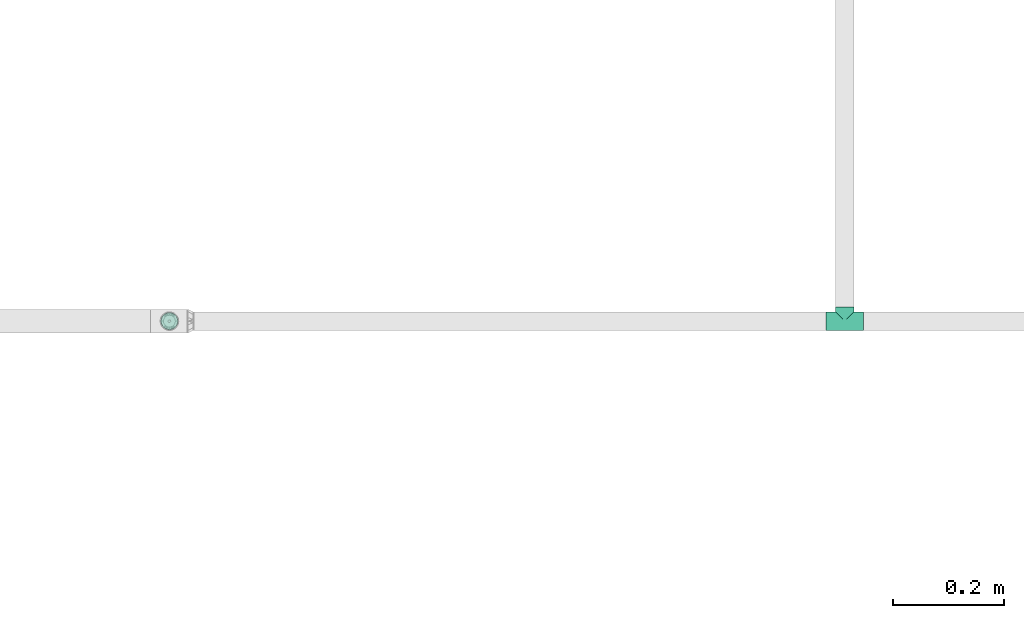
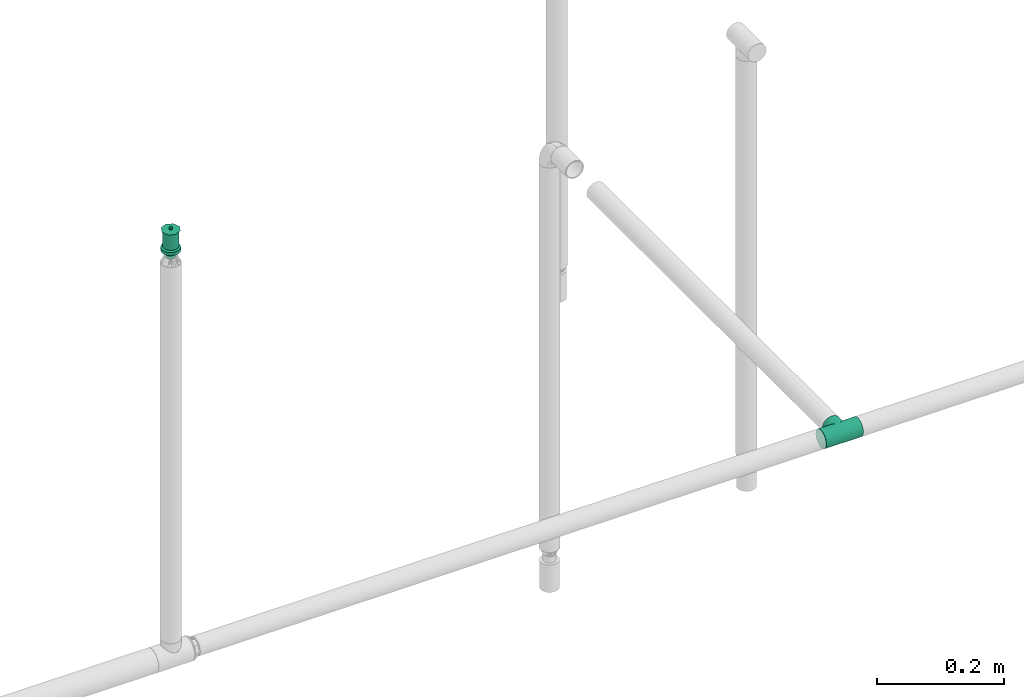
# One storey, part 50 of 94: 1 flow fitting, 1 flow terminal.
"""IFC2X3 building model written with IfcOpenShell, lengths in millimetres."""

from ifc_helpers import new_model, entity, si_unit, converted_unit, derived_unit, direction, frame, origin_with_axes, place, context, subcontext, project, spatial, open_shell, surface_model, source, transform, mapped, type_object, element, save


model = new_model("IFC2X3")

# Units and contexts
model_context = context("Model", 3, precision=0.01, world=frame((0.0, 4.29681676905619e-09, 0.0)), true_north=direction((4.01073788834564e-13, 1.0)))
plan_context = context("Plan", 3, precision=0.01, world=frame((0.0, 4.29681676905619e-09, 0.0)), true_north=direction((4.01073788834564e-13, 1.0)))
body_context = subcontext(model_context, "Body", "Model", "MODEL_VIEW")
ifc_project = project(units=[converted_unit("PLANEANGLEUNIT", "DEGREE", entity("IfcPositiveLengthMeasure", 0.0174532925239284), si_unit("PLANEANGLEUNIT", "RADIAN"), dimensions=[0, 0, 0, 0, 0, 0, 0]), si_unit("AREAUNIT", "SQUARE_METRE"), si_unit("LENGTHUNIT", "METRE", prefix="MILLI"), si_unit("MASSUNIT", "GRAM", prefix="KILO"), si_unit("POWERUNIT", "WATT"), si_unit("PRESSUREUNIT", "PASCAL", prefix="KILO"), si_unit("FORCEUNIT", "NEWTON", prefix="KILO"), si_unit("ELECTRICVOLTAGEUNIT", "VOLT"), si_unit("ELECTRICCURRENTUNIT", "AMPERE"), si_unit("THERMODYNAMICTEMPERATUREUNIT", "DEGREE_CELSIUS"), si_unit("TIMEUNIT", "SECOND"), si_unit("VOLUMEUNIT", "CUBIC_METRE"), derived_unit("LINEARVELOCITYUNIT", [(si_unit("LENGTHUNIT", "METRE"), 1), (si_unit("TIMEUNIT", "SECOND"), -1)]), derived_unit("VOLUMETRICFLOWRATEUNIT", [(si_unit("VOLUMEUNIT", "CUBIC_METRE"), 1), (si_unit("TIMEUNIT", "SECOND"), -1)]), derived_unit("THERMALTRANSMITTANCEUNIT", [(si_unit("POWERUNIT", "WATT"), 1), (si_unit("THERMODYNAMICTEMPERATUREUNIT", "KELVIN"), -1), (si_unit("AREAUNIT", "SQUARE_METRE"), -1)]), derived_unit("SOUNDPRESSUREUNIT", [(si_unit("PRESSUREUNIT", "PASCAL"), 1)])], contexts=[model_context, plan_context])

# Site, building, storey
site_placement = place(None, frame((0.0, -4.29681676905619e-09, 0.0), z_axis=(0.0, 0.0, 1.0), x_axis=(1.0, 0.0, 0.0)))
site = spatial("IfcSite", under=ifc_project, at=site_placement, CompositionType="ELEMENT")
building_placement = place(site_placement, frame((0.0, 4.29681676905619e-09, 0.0), z_axis=(0.0, 0.0, 1.0), x_axis=(1.0, 0.0, 0.0)))
building = spatial("IfcBuilding", under=site, at=building_placement, Name="mc-building", CompositionType="ELEMENT")
storey_placement = place(building_placement, frame((0.0, 0.0, 210900.0), z_axis=(0.0, 0.0, 1.0), x_axis=(1.0, 0.0, 0.0)))
storey = spatial("IfcBuildingStorey", under=building, at=storey_placement, Name="Nivå F", CompositionType="ELEMENT", Elevation=210900.0)

# Flow fitting
pipe_fitting_type = type_object("IfcPipeFittingType", Name="magi_pipe_fe_tee_centric_90_NOR", PredefinedType="JUNCTION")
shared_shape_1 = source(origin_with_axes(), body_context, "Body", "SurfaceModel", [
    surface_model("IfcShellBasedSurfaceModel", [(-33.8, 4.37404, -16.32415), (-33.8, 0.0, -16.9), (-33.8, 16.32415, -4.37404), (-33.8, 8.45, -14.63583), (-33.8, 11.9501, -11.9501), (-33.8, 14.63583, -8.45), (-33.8, -16.9, 0.0), (-33.8, -11.9501, -11.9501), (-33.8, -14.63583, -8.45), (-33.8, -8.45, -14.63583), (-33.8, -4.37404, -16.32415), (-33.8, -16.32415, -4.37404), (-33.8, 14.63583, 8.45), (-33.8, 16.32415, 4.37404), (-33.8, -8.45, 14.63583), (-33.8, 8.45, 14.63583), (-33.8, 11.9501, 11.9501), (-33.8, 4.37404, 16.32415), (-33.8, 0.0, 16.9), (-33.8, -11.9501, 11.9501), (-33.8, -14.63583, 8.45), (-33.8, -16.32415, 4.37404), (-33.8, -4.37404, 16.32415), (-33.8, 16.9, 0.0), (33.8, 4.37404, -16.32415), (33.8, -16.9, 0.0), (33.8, 0.0, -16.9), (33.8, 14.63583, -8.45), (33.8, 8.45, -14.63583), (33.8, 16.32415, -4.37404), (33.8, 11.9501, -11.9501), (33.8, -16.32415, 4.37404), (33.8, -8.45, -14.63583), (33.8, -4.37404, -16.32415), (33.8, -11.9501, -11.9501), (33.8, -14.63583, -8.45), (33.8, -16.32415, -4.37404), (33.8, 16.32415, 4.37404), (33.8, 8.45, 14.63583), (33.8, 14.63583, 8.45), (33.8, 11.9501, 11.9501), (33.8, -8.45, 14.63583), (33.8, 4.37404, 16.32415), (33.8, -14.63583, 8.45), (33.8, -11.9501, 11.9501), (33.8, 0.0, 16.9), (33.8, -4.37404, 16.32415), (33.8, 16.9, 0.0), (16.28698, -16.28698, 4.51047), (16.9, -16.9, 0.0), (14.62704, -14.62704, 8.4652), (9.47213, -9.47213, 13.99602), (12.26343, -12.26343, 11.62834), (-16.9, -16.9, 0.0), (-16.28698, -16.28698, 4.51047), (-14.62704, -14.62704, 8.4652), (-12.26343, -12.26343, 11.62834), (-9.47213, -9.47213, 13.99602), (-6.42894, -6.42894, 15.62942), (6.42894, -6.42894, 15.62942), (3.24522, -3.24522, 16.58549), (0.0, 0.0, 16.9), (-3.24522, -3.24522, 16.58549), (3.24522, -3.24522, -16.58549), (0.0, 0.0, -16.9), (-3.24522, -3.24522, -16.58549), (-6.42894, -6.42894, -15.62942), (6.42894, -6.42894, -15.62942), (9.47213, -9.47213, -13.99602), (12.26343, -12.26343, -11.62834), (14.62704, -14.62704, -8.4652), (16.28698, -16.28698, -4.51047), (-9.47213, -9.47213, -13.99602), (-12.26343, -12.26343, -11.62834), (-16.28698, -16.28698, -4.51047), (-14.62704, -14.62704, -8.4652), (4.37404, -25.35, -16.32415), (-16.9, -25.35, 0.0), (0.0, -25.35, -16.9), (14.63583, -25.35, -8.45), (8.45, -25.35, -14.63583), (16.32415, -25.35, -4.37404), (11.9501, -25.35, -11.9501), (-11.9501, -25.35, -11.9501), (-8.45, -25.35, -14.63583), (-4.37404, -25.35, -16.32415), (-14.63583, -25.35, -8.45), (-16.32415, -25.35, -4.37404), (16.9, -25.35, 0.0), (8.45, -25.35, 14.63583), (16.32415, -25.35, 4.37404), (14.63583, -25.35, 8.45), (-8.45, -25.35, 14.63583), (11.9501, -25.35, 11.9501), (4.37404, -25.35, 16.32415), (-16.32415, -25.35, 4.37404), (-11.9501, -25.35, 11.9501), (-14.63583, -25.35, 8.45), (0.0, -25.35, 16.9), (-4.37404, -25.35, 16.32415)], [open_shell([[[0, 1, 2]], [[3, 0, 4]], [[0, 2, 5]], [[4, 0, 5]], [[6, 2, 1]], [[7, 8, 9]], [[1, 10, 9]], [[11, 6, 8]], [[1, 9, 8]], [[1, 8, 6]], [[6, 12, 2]], [[12, 13, 2]], [[14, 12, 6]], [[12, 14, 15]], [[16, 12, 15]], [[17, 15, 18]], [[19, 14, 20]], [[21, 20, 14]], [[22, 18, 14]], [[14, 6, 21]], [[14, 18, 15]], [[23, 2, 13]], [[24, 25, 26]], [[27, 24, 28]], [[27, 29, 24]], [[27, 28, 30]], [[31, 25, 24]], [[26, 32, 33]], [[26, 34, 32]], [[35, 25, 36]], [[35, 34, 26]], [[25, 35, 26]], [[24, 29, 31]], [[29, 37, 38]], [[38, 37, 39]], [[38, 31, 29]], [[38, 39, 40]], [[41, 38, 42]], [[43, 41, 44]], [[41, 43, 31]], [[41, 45, 46]], [[41, 31, 38]], [[42, 45, 41]], [[29, 47, 37]], [[31, 43, 48]], [[25, 31, 49]], [[49, 31, 48]], [[43, 50, 48]], [[44, 41, 51]], [[50, 43, 52]], [[51, 52, 44]], [[52, 43, 44]], [[53, 54, 21]], [[53, 21, 6]], [[21, 54, 20]], [[54, 55, 20]], [[56, 57, 19]], [[19, 20, 56]], [[19, 57, 14]], [[56, 20, 55]], [[14, 57, 58]], [[51, 41, 59]], [[60, 45, 61]], [[59, 46, 60]], [[46, 59, 41]], [[60, 46, 45]], [[61, 45, 42]], [[39, 37, 13]], [[16, 38, 40]], [[12, 40, 39]], [[42, 38, 15]], [[23, 37, 47]], [[62, 61, 18]], [[62, 22, 58]], [[22, 62, 18]], [[58, 22, 14]], [[61, 17, 18]], [[42, 17, 61]], [[15, 17, 42]], [[15, 38, 16]], [[12, 16, 40]], [[13, 12, 39]], [[37, 23, 13]], [[5, 27, 30]], [[23, 47, 29]], [[30, 28, 3]], [[27, 2, 29]], [[26, 33, 63]], [[26, 64, 24]], [[64, 26, 63]], [[28, 24, 0]], [[64, 0, 24]], [[4, 30, 3]], [[2, 27, 5]], [[5, 30, 4]], [[2, 23, 29]], [[65, 66, 10]], [[1, 0, 64]], [[1, 65, 10]], [[66, 9, 10]], [[0, 3, 28]], [[1, 64, 65]], [[63, 33, 67]], [[32, 34, 68]], [[69, 68, 34]], [[35, 70, 69]], [[69, 34, 35]], [[32, 68, 67]], [[36, 25, 49]], [[36, 71, 35]], [[71, 36, 49]], [[35, 71, 70]], [[72, 9, 66]], [[72, 7, 9]], [[7, 72, 73]], [[7, 73, 8]], [[74, 53, 11]], [[75, 74, 8]], [[74, 11, 8]], [[11, 53, 6]], [[75, 8, 73]], [[32, 67, 33]], [[76, 77, 78]], [[79, 76, 80]], [[79, 81, 76]], [[79, 80, 82]], [[77, 76, 81]], [[78, 83, 84]], [[84, 85, 78]], [[86, 77, 87]], [[83, 78, 86]], [[77, 86, 78]], [[81, 88, 77]], [[89, 88, 90]], [[89, 90, 91]], [[92, 77, 89]], [[89, 91, 93]], [[92, 89, 94]], [[95, 96, 97]], [[96, 95, 92]], [[92, 98, 99]], [[95, 77, 92]], [[94, 98, 92]], [[89, 77, 88]], [[77, 95, 53]], [[54, 53, 95]], [[97, 96, 56]], [[96, 92, 57]], [[95, 97, 54]], [[58, 92, 99]], [[55, 54, 97]], [[56, 55, 97]], [[58, 57, 92]], [[98, 61, 62]], [[58, 99, 62]], [[56, 96, 57]], [[62, 99, 98]], [[94, 60, 98]], [[89, 59, 94]], [[91, 90, 48]], [[52, 93, 91]], [[93, 51, 89]], [[49, 90, 88]], [[59, 60, 94]], [[51, 59, 89]], [[49, 48, 90]], [[50, 52, 91]], [[48, 50, 91]], [[51, 93, 52]], [[98, 60, 61]], [[88, 81, 49]], [[71, 49, 81]], [[79, 82, 69]], [[82, 80, 68]], [[81, 79, 71]], [[67, 80, 76]], [[70, 71, 79]], [[69, 70, 79]], [[67, 68, 80]], [[78, 64, 63]], [[67, 76, 63]], [[69, 82, 68]], [[63, 76, 78]], [[85, 65, 78]], [[84, 66, 85]], [[86, 87, 74]], [[86, 73, 83]], [[72, 84, 83]], [[53, 87, 77]], [[66, 65, 85]], [[72, 66, 84]], [[53, 74, 87]], [[75, 73, 86]], [[74, 75, 86]], [[72, 83, 73]], [[78, 65, 64]]])]),
])
flow_fitting_placement = place(storey_placement, frame((724589.39723, 435194.37907, 3600.0), z_axis=(0.0, 0.0, 1.0), x_axis=(-1.0, 0.0, 0.0)))
element("IfcFlowFitting", 1, at=flow_fitting_placement, inside=storey, type_object=pipe_fitting_type, Name="magi_pipe_fe_tee_centric_90_NOR", context=body_context, shape_type="MappedRepresentation", body=[
    mapped(shared_shape_1, transform((0.0, 0.0, 0.0), scale=1.0)),
])

# Flow terminal
fire_suppression_terminal_type = type_object("IfcFireSuppressionTerminalType", Name="68DGR-STD-STÅENDE", PredefinedType="NOTDEFINED")
shared_shape_2 = source(origin_with_axes(), body_context, "Body", "SurfaceModel", [
    surface_model("IfcShellBasedSurfaceModel", [(3.36465, -12.55704, 51.0), (6.5, -11.25833, 51.0), (9.19239, -9.19239, 51.0), (12.55704, -3.36465, 51.0), (-11.25833, -6.5, 51.0), (11.25833, -6.5, 51.0), (-13.0, 0.0, 51.0), (0.0, -13.0, 51.0), (-6.5, -11.25833, 51.0), (-3.36465, -12.55704, 51.0), (-9.19239, -9.19239, 51.0), (-12.55704, -3.36465, 51.0), (13.0, 0.0, 51.0), (12.55704, 3.36465, 51.0), (11.25833, 6.5, 51.0), (9.19239, 9.19239, 51.0), (6.5, 11.25833, 51.0), (3.36465, 12.55704, 51.0), (0.0, 13.0, 51.0), (-3.36465, 12.55704, 51.0), (-12.55704, 3.36465, 51.0), (-9.19239, 9.19239, 51.0), (-11.25833, 6.5, 51.0), (-6.5, 11.25833, 51.0), (0.0, 13.0, 21.14766), (3.36465, 12.55704, 21.14766), (6.5, 11.25833, 21.14766), (-3.36465, 12.55704, 21.14766), (9.19239, 9.19239, 21.14766), (11.25833, 6.5, 21.14766), (12.55704, 3.36465, 21.14766), (-12.55704, 3.36465, 21.14766), (-11.25833, -6.5, 21.14766), (-9.19239, 9.19239, 21.14766), (-6.5, 11.25833, 21.14766), (-11.25833, 6.5, 21.14766), (-13.0, 0.0, 21.14766), (12.55704, -3.36465, 21.14766), (9.19239, -9.19239, 21.14766), (11.25833, -6.5, 21.14766), (6.5, -11.25833, 21.14766), (3.36465, -12.55704, 21.14766), (-6.5, -11.25833, 21.14766), (-9.19239, -9.19239, 21.14766), (-12.55704, -3.36465, 21.14766), (0.0, -13.0, 21.14766), (-3.36465, -12.55704, 21.14766), (13.0, 0.0, 21.14766), (7.24444, -1.94114, 0.1), (1.94114, -7.24444, 0.1), (3.75, -6.49519, 0.1), (5.3033, -5.3033, 0.1), (-5.3033, -5.3033, 0.1), (6.49519, -3.75, 0.1), (5.3033, 5.3033, 0.1), (0.0, -7.5, 0.1), (-3.75, -6.49519, 0.1), (-1.94114, -7.24444, 0.1), (-7.24444, -1.94114, 0.1), (-6.49519, -3.75, 0.1), (-7.24444, 1.94114, 0.1), (7.5, 0.0, 0.1), (6.49519, 3.75, 0.1), (-6.49519, 3.75, 0.1), (1.94114, 7.24444, 0.1), (0.0, 7.5, 0.1), (3.75, 6.49519, 0.1), (-7.5, 0.0, 0.1), (-5.3033, 5.3033, 0.1), (-1.94114, 7.24444, 0.1), (-3.75, 6.49519, 0.1), (7.24444, 1.94114, 0.1), (1.94114, 7.24444, -0.1), (-6.49519, 3.75, -0.1), (0.0, 7.5, -0.1), (5.3033, 5.3033, -0.1), (3.75, 6.49519, -0.1), (6.49519, 3.75, -0.1), (7.24444, 1.94114, -0.1), (-1.94114, 7.24444, -0.1), (-5.3033, 5.3033, -0.1), (-3.75, 6.49519, -0.1), (-7.24444, 1.94114, -0.1), (-7.24444, -1.94114, -0.1), (-7.5, 0.0, -0.1), (7.5, 0.0, -0.1), (7.24444, -1.94114, -0.1), (-5.3033, -5.3033, -0.1), (1.94114, -7.24444, -0.1), (6.49519, -3.75, -0.1), (5.3033, -5.3033, -0.1), (3.75, -6.49519, -0.1), (-6.49519, -3.75, -0.1), (-3.75, -6.49519, -0.1), (0.0, -7.5, -0.1), (-1.94114, -7.24444, -0.1), (0.0, -2.5, 51.0), (-2.5, 0.0, 51.0), (0.0, 2.5, 51.0), (2.5, 0.0, 51.0), (0.0, -16.0, 53.0), (11.31371, -11.31371, 53.0), (-11.31371, -11.31371, 53.0), (-16.0, 0.0, 53.0), (16.0, 0.0, 53.0), (11.31371, 11.31371, 53.0), (0.0, 16.0, 53.0), (-11.31371, 11.31371, 53.0), (1.25, -2.16506, 57.0), (0.0, -2.5, 57.0), (0.64705, -2.41481, 57.0), (2.41481, -0.64705, 57.0), (1.76777, -1.76777, 57.0), (-2.41481, -0.64705, 57.0), (-2.5, 0.0, 57.0), (2.16506, -1.25, 57.0), (-1.25, -2.16506, 57.0), (-0.64705, -2.41481, 57.0), (-1.76777, -1.76777, 57.0), (-2.16506, -1.25, 57.0), (2.5, 0.0, 57.0), (2.41481, 0.64705, 57.0), (2.16506, 1.25, 57.0), (1.76777, 1.76777, 57.0), (0.64705, 2.41481, 57.0), (1.25, 2.16506, 57.0), (-1.76777, 1.76777, 57.0), (0.0, 2.5, 57.0), (-2.16506, 1.25, 57.0), (-2.41481, 0.64705, 57.0), (-0.64705, 2.41481, 57.0), (-1.25, 2.16506, 57.0), (1.25, 2.16506, 51.0), (1.76777, 1.76777, 51.0), (1.15, 1.99186, 51.0), (0.59528, 2.22163, 51.0), (0.64705, 2.41481, 51.0), (0.0, 2.3, 51.0), (1.62635, 1.62635, 51.0), (2.41481, 0.64705, 51.0), (2.3, 0.0, 51.0), (2.22163, 0.59528, 51.0), (2.16506, 1.25, 51.0), (1.99186, 1.15, 51.0), (-0.59528, 2.22163, 51.0), (-0.64705, 2.41481, 51.0), (-1.15, 1.99186, 51.0), (-1.76777, 1.76777, 51.0), (-1.25, 2.16506, 51.0), (-1.62635, 1.62635, 51.0), (-1.99186, 1.15, 51.0), (-2.16506, 1.25, 51.0), (-2.22163, 0.59528, 51.0), (-2.41481, 0.64705, 51.0), (-2.3, 0.0, 51.0), (2.41481, -0.64705, 51.0), (2.22163, -0.59528, 51.0), (1.99186, -1.15, 51.0), (2.16506, -1.25, 51.0), (1.62635, -1.62635, 51.0), (1.76777, -1.76777, 51.0), (1.25, -2.16506, 51.0), (1.15, -1.99186, 51.0), (0.59528, -2.22163, 51.0), (0.64705, -2.41481, 51.0), (0.0, -2.3, 51.0), (-2.16506, -1.25, 51.0), (-1.99186, -1.15, 51.0), (-1.76777, -1.76777, 51.0), (-1.62635, -1.62635, 51.0), (-2.41481, -0.64705, 51.0), (-2.22163, -0.59528, 51.0), (-0.59528, -2.22163, 51.0), (-0.64705, -2.41481, 51.0), (-1.15, -1.99186, 51.0), (-1.25, -2.16506, 51.0), (1.62635, -1.62635, 56.8), (1.15, -1.99186, 56.8), (0.59528, -2.22163, 56.8), (0.0, -2.3, 56.8), (2.22163, 0.59528, 56.8), (1.99186, -1.15, 56.8), (2.22163, -0.59528, 56.8), (-0.59528, -2.22163, 56.8), (-1.15, -1.99186, 56.8), (-1.62635, -1.62635, 56.8), (-1.99186, -1.15, 56.8), (-2.22163, -0.59528, 56.8), (-1.99186, 1.15, 56.8), (2.3, 0.0, 56.8), (1.62635, 1.62635, 56.8), (1.99186, 1.15, 56.8), (1.15, 1.99186, 56.8), (0.0, 2.3, 56.8), (0.59528, 2.22163, 56.8), (-2.22163, 0.59528, 56.8), (-2.3, 0.0, 56.8), (-1.15, 1.99186, 56.8), (-0.59528, 2.22163, 56.8), (-1.62635, 1.62635, 56.8), (4.1411, -15.45481, 19.0), (8.0, -13.85641, 19.0), (11.31371, -11.31371, 19.0), (-8.0, -13.85641, 19.0), (15.45481, -4.1411, 19.0), (16.0, 0.0, 19.0), (13.85641, -8.0, 19.0), (0.0, -16.0, 19.0), (-4.1411, -15.45481, 19.0), (-13.85641, -8.0, 19.0), (-11.31371, -11.31371, 19.0), (-15.45481, -4.1411, 19.0), (15.45481, 4.1411, 19.0), (13.85641, 8.0, 19.0), (11.31371, 11.31371, 19.0), (-4.1411, 15.45481, 19.0), (8.0, 13.85641, 19.0), (4.1411, 15.45481, 19.0), (0.0, 16.0, 19.0), (-13.85641, 8.0, 19.0), (-15.45481, 4.1411, 19.0), (-16.0, 0.0, 19.0), (-11.31371, 11.31371, 19.0), (-8.0, 13.85641, 19.0), (0.0, 16.0, 13.0), (4.1411, 15.45481, 13.0), (8.0, 13.85641, 13.0), (-4.1411, 15.45481, 13.0), (11.31371, 11.31371, 13.0), (13.85641, 8.0, 13.0), (15.45481, 4.1411, 13.0), (-15.45481, -4.1411, 13.0), (-11.31371, 11.31371, 13.0), (-8.0, 13.85641, 13.0), (-13.85641, 8.0, 13.0), (-15.45481, 4.1411, 13.0), (-16.0, 0.0, 13.0), (4.1411, -15.45481, 13.0), (16.0, 0.0, 13.0), (15.45481, -4.1411, 13.0), (13.85641, -8.0, 13.0), (11.31371, -11.31371, 13.0), (8.0, -13.85641, 13.0), (-8.0, -13.85641, 13.0), (-13.85641, -8.0, 13.0), (-11.31371, -11.31371, 13.0), (0.0, -16.0, 13.0), (-4.1411, -15.45481, 13.0), (7.24444, -1.94114, 13.0), (1.94114, -7.24444, 13.0), (3.75, -6.49519, 13.0), (5.3033, -5.3033, 13.0), (-5.3033, -5.3033, 13.0), (6.49519, -3.75, 13.0), (5.3033, 5.3033, 13.0), (0.0, -7.5, 13.0), (-3.75, -6.49519, 13.0), (-1.94114, -7.24444, 13.0), (-7.24444, -1.94114, 13.0), (-6.49519, -3.75, 13.0), (-7.24444, 1.94114, 13.0), (7.5, 0.0, 13.0), (6.49519, 3.75, 13.0), (-6.49519, 3.75, 13.0), (1.94114, 7.24444, 13.0), (0.0, 7.5, 13.0), (3.75, 6.49519, 13.0), (-7.5, 0.0, 13.0), (-5.3033, 5.3033, 13.0), (-1.94114, 7.24444, 13.0), (-3.75, 6.49519, 13.0), (7.24444, 1.94114, 13.0), (3.75, 6.49519, 0.0), (5.3033, 5.3033, 0.0), (3.65, 6.32199, 0.0), (1.88938, 7.05126, 0.0), (0.0, 7.3, 0.0), (1.94114, 7.24444, 0.0), (0.0, 7.5, 0.0), (5.16188, 5.16188, 0.0), (7.24444, 1.94114, 0.0), (7.3, 0.0, 0.0), (7.05126, 1.88938, 0.0), (7.5, 0.0, 0.0), (6.49519, 3.75, 0.0), (6.32199, 3.65, 0.0), (-1.88938, 7.05126, 0.0), (-1.94114, 7.24444, 0.0), (-3.65, 6.32199, 0.0), (-5.3033, 5.3033, 0.0), (-3.75, 6.49519, 0.0), (-5.16188, 5.16188, 0.0), (-6.32199, 3.65, 0.0), (-6.49519, 3.75, 0.0), (-7.05126, 1.88938, 0.0), (-7.24444, 1.94114, 0.0), (-7.3, 0.0, 0.0), (-7.5, 0.0, 0.0), (7.24444, -1.94114, 0.0), (7.05126, -1.88938, 0.0), (6.32199, -3.65, 0.0), (6.49519, -3.75, 0.0), (5.16188, -5.16188, 0.0), (5.3033, -5.3033, 0.0), (3.75, -6.49519, 0.0), (3.65, -6.32199, 0.0), (1.88938, -7.05126, 0.0), (1.94114, -7.24444, 0.0), (0.0, -7.3, 0.0), (0.0, -7.5, 0.0), (-6.49519, -3.75, 0.0), (-6.32199, -3.65, 0.0), (-5.3033, -5.3033, 0.0), (-5.16188, -5.16188, 0.0), (-7.24444, -1.94114, 0.0), (-7.05126, -1.88938, 0.0), (-1.88938, -7.05126, 0.0), (-1.94114, -7.24444, 0.0), (-3.65, -6.32199, 0.0), (-3.75, -6.49519, 0.0), (1.88938, -7.05126, 12.8), (0.0, -7.3, 12.8), (3.65, -6.32199, 12.8), (5.16188, -5.16188, 12.8), (6.32199, -3.65, 12.8), (7.05126, 1.88938, 12.8), (7.05126, -1.88938, 12.8), (-5.16188, -5.16188, 12.8), (-1.88938, -7.05126, 12.8), (-3.65, -6.32199, 12.8), (-6.32199, -3.65, 12.8), (-7.05126, -1.88938, 12.8), (0.0, 7.3, 12.8), (7.3, 0.0, 12.8), (6.32199, 3.65, 12.8), (5.16188, 5.16188, 12.8), (3.65, 6.32199, 12.8), (1.88938, 7.05126, 12.8), (-6.32199, 3.65, 12.8), (-7.05126, 1.88938, 12.8), (-7.3, 0.0, 12.8), (-3.65, 6.32199, 12.8), (-1.88938, 7.05126, 12.8), (-5.16188, 5.16188, 12.8)], [open_shell([[[0, 1, 2]], [[0, 2, 3]], [[0, 3, 4]], [[3, 2, 5]], [[6, 4, 3]], [[7, 8, 9]], [[7, 0, 8]], [[8, 4, 10]], [[0, 4, 8]], [[4, 6, 11]], [[6, 3, 12]], [[13, 14, 15]], [[6, 13, 15]], [[16, 17, 18]], [[15, 16, 19]], [[18, 19, 16]], [[20, 21, 22]], [[20, 6, 15]], [[21, 19, 23]], [[19, 21, 20]], [[15, 19, 20]], [[13, 6, 12]], [[24, 25, 26]], [[27, 24, 26]], [[28, 29, 30]], [[26, 28, 31]], [[28, 32, 31]], [[27, 33, 34]], [[33, 27, 31]], [[33, 31, 35]], [[27, 26, 31]], [[31, 32, 36]], [[32, 28, 30]], [[32, 30, 37]], [[38, 37, 39]], [[38, 40, 41]], [[38, 41, 37]], [[32, 37, 41]], [[32, 42, 43]], [[44, 36, 32]], [[42, 45, 46]], [[42, 32, 41]], [[45, 42, 41]], [[30, 47, 37]], [[4, 32, 43]], [[8, 42, 46]], [[43, 42, 10]], [[9, 46, 45]], [[36, 11, 6]], [[11, 36, 44]], [[11, 44, 4]], [[44, 32, 4]], [[43, 10, 4]], [[8, 10, 42]], [[46, 9, 8]], [[45, 7, 9]], [[0, 41, 40]], [[38, 1, 40]], [[5, 39, 37]], [[38, 39, 2]], [[3, 37, 47]], [[41, 0, 7]], [[40, 1, 0]], [[38, 2, 1]], [[39, 5, 2]], [[3, 5, 37]], [[47, 12, 3]], [[41, 7, 45]], [[30, 13, 47]], [[29, 14, 30]], [[25, 24, 17]], [[15, 29, 28]], [[30, 14, 13]], [[13, 12, 47]], [[16, 26, 17]], [[16, 15, 28]], [[26, 25, 17]], [[15, 14, 29]], [[28, 26, 16]], [[24, 18, 17]], [[19, 27, 34]], [[33, 23, 34]], [[22, 35, 31]], [[33, 35, 21]], [[20, 31, 36]], [[27, 19, 18]], [[34, 23, 19]], [[33, 21, 23]], [[35, 22, 21]], [[20, 22, 31]], [[36, 6, 20]], [[27, 18, 24]], [[48, 49, 50]], [[48, 50, 51]], [[49, 48, 52]], [[48, 51, 53]], [[54, 52, 48]], [[55, 56, 57]], [[56, 55, 52]], [[52, 58, 59]], [[52, 55, 49]], [[52, 60, 58]], [[54, 48, 61]], [[62, 54, 61]], [[54, 63, 52]], [[64, 65, 54]], [[64, 54, 66]], [[63, 54, 65]], [[63, 60, 52]], [[67, 58, 60]], [[68, 69, 70]], [[69, 68, 63]], [[69, 63, 65]], [[71, 62, 61]], [[72, 73, 74]], [[75, 72, 76]], [[75, 77, 78]], [[72, 75, 73]], [[78, 73, 75]], [[79, 80, 81]], [[80, 79, 73]], [[74, 73, 79]], [[78, 82, 73]], [[82, 83, 84]], [[82, 78, 85]], [[86, 87, 85]], [[88, 86, 89]], [[90, 91, 88]], [[90, 88, 89]], [[87, 86, 88]], [[83, 87, 92]], [[83, 85, 87]], [[93, 94, 95]], [[94, 93, 87]], [[88, 94, 87]], [[85, 83, 82]], [[83, 58, 84]], [[92, 59, 83]], [[56, 87, 93]], [[92, 87, 52]], [[57, 93, 95]], [[83, 59, 58]], [[58, 67, 84]], [[57, 56, 93]], [[52, 87, 56]], [[52, 59, 92]], [[55, 57, 95]], [[95, 94, 55]], [[88, 49, 94]], [[91, 50, 88]], [[53, 90, 89]], [[91, 90, 51]], [[48, 89, 86]], [[91, 51, 50]], [[50, 49, 88]], [[61, 48, 86]], [[53, 89, 48]], [[53, 51, 90]], [[85, 61, 86]], [[94, 49, 55]], [[78, 71, 85]], [[77, 62, 78]], [[66, 75, 76]], [[77, 75, 54]], [[64, 76, 72]], [[78, 62, 71]], [[71, 61, 85]], [[64, 66, 76]], [[54, 75, 66]], [[54, 62, 77]], [[65, 64, 72]], [[72, 74, 65]], [[79, 69, 74]], [[81, 70, 79]], [[63, 80, 73]], [[81, 80, 68]], [[60, 73, 82]], [[81, 68, 70]], [[70, 69, 79]], [[67, 60, 82]], [[63, 73, 60]], [[63, 68, 80]], [[84, 67, 82]], [[74, 69, 65]], [[96, 97, 98]], [[98, 99, 96]], [[100, 101, 102]], [[103, 102, 101]], [[101, 104, 103]], [[104, 105, 106]], [[107, 103, 106]], [[106, 103, 104]], [[99, 98, 105]], [[105, 104, 99]], [[98, 106, 105]], [[98, 107, 106]], [[107, 98, 97]], [[103, 107, 97]], [[97, 96, 102]], [[102, 103, 97]], [[96, 100, 102]], [[96, 101, 100]], [[101, 96, 99]], [[104, 101, 99]], [[108, 109, 110]], [[111, 108, 112]], [[113, 108, 114]], [[111, 112, 115]], [[108, 111, 114]], [[109, 116, 117]], [[116, 109, 118]], [[118, 113, 119]], [[118, 109, 108]], [[108, 113, 118]], [[111, 120, 114]], [[121, 122, 123]], [[114, 121, 123]], [[114, 123, 124]], [[124, 123, 125]], [[126, 124, 127]], [[124, 128, 129]], [[129, 114, 124]], [[126, 130, 131]], [[128, 124, 126]], [[130, 126, 127]], [[121, 114, 120]], [[132, 133, 134]], [[132, 134, 135]], [[136, 135, 137]], [[135, 136, 132]], [[136, 137, 98]], [[134, 133, 138]], [[139, 140, 141]], [[140, 139, 99]], [[139, 141, 142]], [[138, 142, 143]], [[142, 138, 133]], [[143, 142, 141]], [[98, 144, 145]], [[98, 137, 144]], [[145, 144, 146]], [[147, 148, 149]], [[146, 148, 145]], [[149, 148, 146]], [[150, 151, 147]], [[151, 150, 152]], [[150, 147, 149]], [[153, 152, 154]], [[152, 153, 151]], [[153, 154, 97]], [[99, 155, 156]], [[156, 155, 157]], [[157, 158, 159]], [[158, 157, 155]], [[159, 158, 160]], [[160, 161, 162]], [[162, 161, 163]], [[163, 164, 165]], [[164, 163, 161]], [[165, 164, 96]], [[162, 159, 160]], [[166, 167, 168]], [[168, 167, 169]], [[167, 166, 170]], [[97, 171, 170]], [[170, 171, 167]], [[97, 154, 171]], [[172, 96, 173]], [[172, 173, 174]], [[169, 175, 168]], [[175, 169, 174]], [[175, 174, 173]], [[165, 96, 172]], [[156, 140, 99]], [[170, 113, 97]], [[166, 119, 170]], [[116, 168, 175]], [[166, 168, 118]], [[117, 175, 173]], [[170, 119, 113]], [[113, 114, 97]], [[117, 116, 175]], [[118, 168, 116]], [[118, 119, 166]], [[109, 117, 173]], [[173, 96, 109]], [[164, 110, 96]], [[161, 108, 164]], [[115, 160, 158]], [[161, 160, 112]], [[111, 158, 155]], [[161, 112, 108]], [[108, 110, 164]], [[120, 111, 155]], [[115, 158, 111]], [[115, 112, 160]], [[99, 120, 155]], [[96, 110, 109]], [[139, 121, 99]], [[142, 122, 139]], [[125, 133, 132]], [[142, 133, 123]], [[124, 132, 136]], [[139, 122, 121]], [[121, 120, 99]], [[124, 125, 132]], [[123, 133, 125]], [[123, 122, 142]], [[127, 124, 136]], [[136, 98, 127]], [[145, 130, 98]], [[148, 131, 145]], [[128, 147, 151]], [[148, 147, 126]], [[129, 151, 153]], [[148, 126, 131]], [[131, 130, 145]], [[114, 129, 153]], [[128, 151, 129]], [[128, 126, 147]], [[97, 114, 153]], [[98, 130, 127]], [[176, 177, 178]], [[176, 178, 179]], [[180, 176, 179]], [[181, 176, 182]], [[180, 182, 176]], [[183, 184, 179]], [[185, 179, 184]], [[186, 187, 185]], [[185, 187, 188]], [[179, 185, 188]], [[189, 182, 180]], [[190, 191, 180]], [[192, 190, 180]], [[193, 194, 192]], [[180, 193, 192]], [[188, 193, 180]], [[195, 188, 196]], [[196, 188, 187]], [[197, 198, 199]], [[188, 199, 198]], [[188, 198, 193]], [[180, 179, 188]], [[154, 187, 171]], [[171, 186, 167]], [[174, 169, 184]], [[185, 169, 167]], [[172, 174, 183]], [[187, 186, 171]], [[154, 196, 187]], [[174, 184, 183]], [[184, 169, 185]], [[167, 186, 185]], [[172, 183, 179]], [[179, 165, 172]], [[165, 178, 163]], [[163, 177, 162]], [[157, 159, 181]], [[176, 159, 162]], [[156, 157, 182]], [[177, 176, 162]], [[163, 178, 177]], [[156, 182, 189]], [[182, 157, 181]], [[159, 176, 181]], [[156, 189, 140]], [[179, 178, 165]], [[140, 180, 141]], [[141, 191, 143]], [[134, 138, 192]], [[190, 138, 143]], [[135, 134, 194]], [[180, 191, 141]], [[140, 189, 180]], [[134, 192, 194]], [[192, 138, 190]], [[143, 191, 190]], [[135, 194, 193]], [[193, 137, 135]], [[137, 198, 144]], [[144, 197, 146]], [[150, 149, 188]], [[199, 149, 146]], [[152, 150, 195]], [[197, 199, 146]], [[144, 198, 197]], [[152, 195, 196]], [[195, 150, 188]], [[149, 199, 188]], [[152, 196, 154]], [[193, 198, 137]], [[200, 201, 202]], [[203, 200, 202]], [[204, 205, 202]], [[204, 202, 206]], [[203, 202, 205]], [[207, 203, 208]], [[207, 200, 203]], [[203, 209, 210]], [[209, 203, 211]], [[205, 211, 203]], [[205, 212, 211]], [[212, 213, 214]], [[215, 212, 214]], [[216, 217, 218]], [[214, 216, 215]], [[218, 215, 216]], [[211, 219, 220]], [[221, 211, 220]], [[222, 215, 223]], [[215, 222, 219]], [[219, 211, 215]], [[211, 212, 215]], [[224, 225, 226]], [[227, 224, 226]], [[228, 229, 230]], [[227, 226, 228]], [[227, 228, 231]], [[227, 232, 233]], [[232, 227, 234]], [[234, 231, 235]], [[231, 234, 227]], [[235, 231, 236]], [[228, 230, 231]], [[237, 238, 239]], [[237, 239, 240]], [[241, 242, 237]], [[241, 237, 240]], [[238, 237, 243]], [[244, 243, 245]], [[243, 244, 231]], [[243, 246, 247]], [[243, 231, 238]], [[237, 246, 243]], [[238, 231, 230]], [[231, 211, 236]], [[244, 209, 231]], [[203, 245, 243]], [[244, 245, 210]], [[208, 243, 247]], [[231, 209, 211]], [[211, 221, 236]], [[208, 203, 243]], [[210, 245, 203]], [[210, 209, 244]], [[207, 208, 247]], [[247, 246, 207]], [[237, 200, 246]], [[242, 201, 237]], [[206, 241, 240]], [[242, 241, 202]], [[204, 240, 239]], [[242, 202, 201]], [[201, 200, 237]], [[205, 204, 239]], [[206, 240, 204]], [[206, 202, 241]], [[238, 205, 239]], [[246, 200, 207]], [[230, 212, 238]], [[229, 213, 230]], [[216, 228, 226]], [[229, 228, 214]], [[217, 226, 225]], [[230, 213, 212]], [[212, 205, 238]], [[217, 216, 226]], [[214, 228, 216]], [[214, 213, 229]], [[218, 217, 225]], [[225, 224, 218]], [[227, 215, 224]], [[233, 223, 227]], [[219, 232, 234]], [[233, 232, 222]], [[220, 234, 235]], [[233, 222, 223]], [[223, 215, 227]], [[221, 220, 235]], [[219, 234, 220]], [[219, 222, 232]], [[236, 221, 235]], [[224, 215, 218]], [[248, 249, 250]], [[248, 250, 251]], [[249, 248, 252]], [[248, 251, 253]], [[254, 252, 248]], [[255, 256, 257]], [[256, 255, 252]], [[252, 258, 259]], [[252, 255, 249]], [[252, 260, 258]], [[254, 248, 261]], [[262, 254, 261]], [[254, 263, 252]], [[264, 265, 254]], [[264, 254, 266]], [[263, 254, 265]], [[263, 260, 252]], [[267, 258, 260]], [[268, 269, 270]], [[269, 268, 263]], [[269, 263, 265]], [[271, 262, 261]], [[272, 273, 274]], [[272, 274, 275]], [[276, 277, 275]], [[277, 276, 278]], [[275, 277, 272]], [[274, 273, 279]], [[280, 281, 282]], [[281, 280, 283]], [[280, 282, 284]], [[279, 284, 285]], [[284, 279, 273]], [[285, 284, 282]], [[278, 286, 287]], [[287, 286, 288]], [[289, 290, 291]], [[288, 290, 287]], [[288, 291, 290]], [[278, 276, 286]], [[292, 293, 289]], [[293, 292, 294]], [[292, 289, 291]], [[295, 294, 296]], [[294, 295, 293]], [[295, 296, 297]], [[283, 298, 299]], [[299, 298, 300]], [[300, 301, 302]], [[301, 300, 298]], [[302, 301, 303]], [[303, 304, 305]], [[305, 304, 306]], [[306, 307, 308]], [[307, 306, 304]], [[308, 307, 309]], [[305, 302, 303]], [[310, 311, 312]], [[312, 311, 313]], [[311, 310, 314]], [[297, 315, 314]], [[314, 315, 311]], [[297, 296, 315]], [[316, 309, 317]], [[316, 317, 318]], [[313, 319, 312]], [[313, 318, 319]], [[319, 318, 317]], [[308, 309, 316]], [[299, 281, 283]], [[314, 258, 297]], [[310, 259, 314]], [[256, 312, 319]], [[310, 312, 252]], [[257, 319, 317]], [[314, 259, 258]], [[258, 267, 297]], [[257, 256, 319]], [[252, 312, 256]], [[252, 259, 310]], [[255, 257, 317]], [[317, 309, 255]], [[307, 249, 309]], [[304, 250, 307]], [[253, 303, 301]], [[304, 303, 251]], [[248, 301, 298]], [[304, 251, 250]], [[250, 249, 307]], [[261, 248, 298]], [[253, 301, 248]], [[253, 251, 303]], [[283, 261, 298]], [[309, 249, 255]], [[280, 271, 283]], [[284, 262, 280]], [[266, 273, 272]], [[284, 273, 254]], [[264, 272, 277]], [[280, 262, 271]], [[271, 261, 283]], [[264, 266, 272]], [[254, 273, 266]], [[254, 262, 284]], [[265, 264, 277]], [[277, 278, 265]], [[287, 269, 278]], [[290, 270, 287]], [[263, 289, 293]], [[290, 289, 268]], [[260, 293, 295]], [[290, 268, 270]], [[270, 269, 287]], [[267, 260, 295]], [[263, 293, 260]], [[263, 268, 289]], [[297, 267, 295]], [[278, 269, 265]], [[320, 321, 322]], [[323, 322, 324]], [[325, 326, 322]], [[324, 322, 326]], [[322, 327, 325]], [[328, 329, 321]], [[327, 321, 329]], [[330, 331, 327]], [[322, 321, 327]], [[331, 332, 327]], [[326, 325, 333]], [[334, 325, 332]], [[335, 334, 336]], [[332, 337, 336]], [[334, 332, 336]], [[331, 338, 332]], [[339, 338, 340]], [[340, 338, 331]], [[341, 342, 343]], [[332, 338, 343]], [[332, 343, 342]], [[332, 325, 327]], [[296, 331, 315]], [[315, 330, 311]], [[318, 313, 329]], [[327, 313, 311]], [[316, 318, 328]], [[331, 330, 315]], [[296, 340, 331]], [[318, 329, 328]], [[329, 313, 327]], [[311, 330, 327]], [[316, 328, 321]], [[321, 308, 316]], [[308, 320, 306]], [[306, 322, 305]], [[300, 302, 324]], [[323, 302, 305]], [[299, 300, 326]], [[322, 323, 305]], [[306, 320, 322]], [[299, 326, 333]], [[326, 300, 324]], [[302, 323, 324]], [[299, 333, 281]], [[321, 320, 308]], [[281, 325, 282]], [[282, 334, 285]], [[274, 279, 336]], [[335, 279, 285]], [[275, 274, 337]], [[325, 334, 282]], [[281, 333, 325]], [[274, 336, 337]], [[336, 279, 335]], [[285, 334, 335]], [[275, 337, 332]], [[332, 276, 275]], [[276, 342, 286]], [[286, 341, 288]], [[292, 291, 338]], [[343, 291, 288]], [[294, 292, 339]], [[341, 343, 288]], [[286, 342, 341]], [[294, 339, 340]], [[339, 292, 338]], [[291, 343, 338]], [[294, 340, 296]], [[332, 342, 276]]])]),
])
flow_terminal_placement = place(storey_placement, frame((723368.83068, 435194.37907, 4367.0), z_axis=(0.0, 0.0, 1.0), x_axis=(1.0, 0.0, 0.0)))
element("IfcFlowTerminal", 2, at=flow_terminal_placement, inside=storey, type_object=fire_suppression_terminal_type, Name="68DGR-STD-STÅENDE", context=body_context, shape_type="MappedRepresentation", body=[
    mapped(shared_shape_2, transform((0.0, 0.0, 0.0), scale=1.0)),
])

save(model, "model.ifc")
